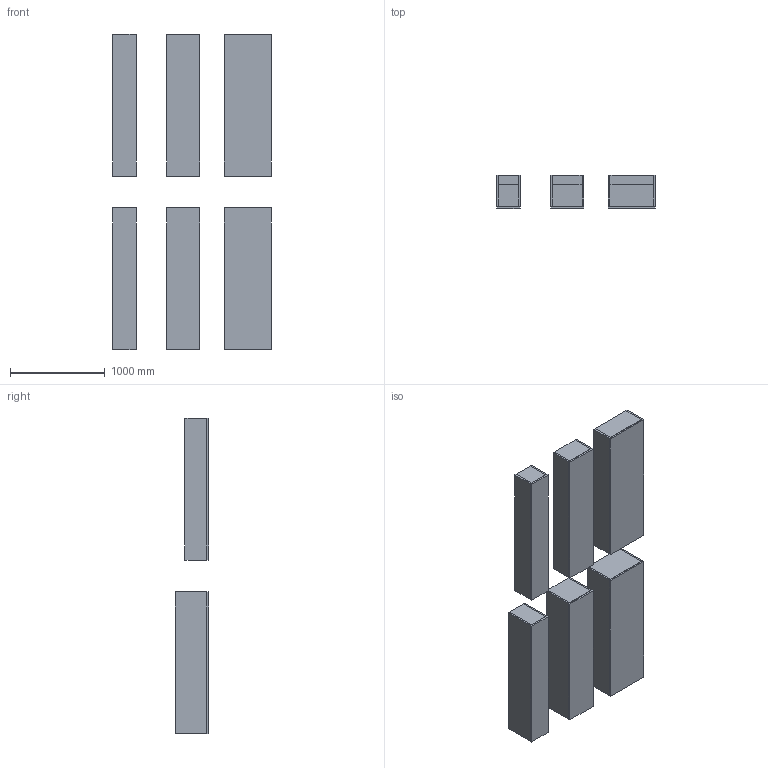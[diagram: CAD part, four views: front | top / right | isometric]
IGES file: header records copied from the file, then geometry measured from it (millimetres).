
Global section: file name: \\Archi-NAS\Comune\X GIOVANNI\MOBILI\BOXLINE\BOXLINE_TOTEM h 1500.igs; native system: Rhinoceros ( Feb 23 2021 ); preprocessor: Trout Lake IGES 012 Feb 23 2021; date: 230607.153624; units: millimetre
Bounding box: 1681.08 x 350 x 3336.96 mm (x, y, z)
Surface area: 30837024 mm2 (no closed solid volume)
Topology: 0 solids, 0 shells, 360 faces, 1440 edges, 1440 vertices
Faces by surface type: bspline 360
